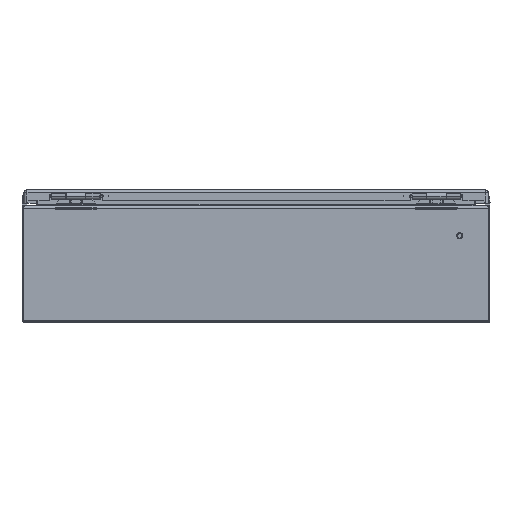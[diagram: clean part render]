
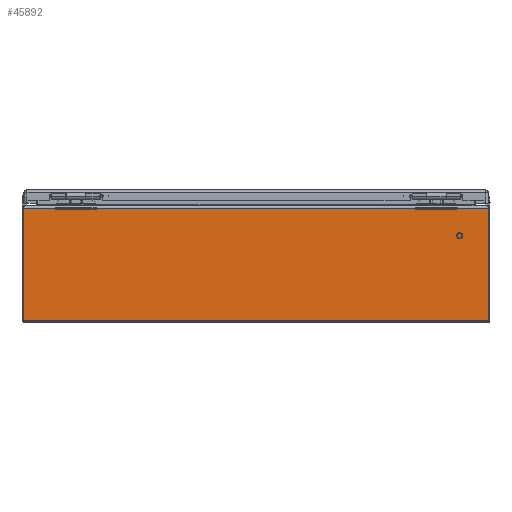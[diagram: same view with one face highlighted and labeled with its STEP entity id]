
A CAD part, left-side view. The second image highlights one B-rep face of the part: STEP entity #45892.
In plain terms, the highlighted planar face has unit normal (-1, 0, 0).
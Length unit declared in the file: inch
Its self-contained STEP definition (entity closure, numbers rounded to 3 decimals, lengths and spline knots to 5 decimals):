
#722 = EDGE_CURVE ( 'NONE', #37705, #37706, #25071, .T. ) ;
#765 = EDGE_CURVE ( 'NONE', #37542, #37543, #25126, .T. ) ;
#780 = EDGE_CURVE ( 'NONE', #37705, #37543, #25153, .T. ) ;
#783 = EDGE_CURVE ( 'NONE', #37706, #37542, #25158, .T. ) ;
#4175 = CARTESIAN_POINT ( 'NONE',  ( -12., -11.93793, 0.106 ) ) ;
#4176 = CARTESIAN_POINT ( 'NONE',  ( -12., -11.93793, 5.855 ) ) ;
#4338 = CARTESIAN_POINT ( 'NONE',  ( -12., 11.93793, 5.855 ) ) ;
#4339 = CARTESIAN_POINT ( 'NONE',  ( -12., 11.93793, 0.106 ) ) ;
#7543 = CARTESIAN_POINT ( 'NONE',  ( -12., 132., 5.855 ) ) ;
#7547 = PLANE ( 'NONE',  #44786 ) ;
#7552 = DIRECTION ( 'NONE',  ( -1., 0., 0. ) ) ;
#7553 = DIRECTION ( 'NONE',  ( 0., 0., -1. ) ) ;
#7975 = FACE_OUTER_BOUND ( 'NONE', #46783, .T. ) ;
#23492 = ORIENTED_EDGE ( 'NONE', *, *, #765, .T. ) ;
#23574 = ORIENTED_EDGE ( 'NONE', *, *, #783, .T. ) ;
#23580 = ORIENTED_EDGE ( 'NONE', *, *, #722, .T. ) ;
#23581 = ORIENTED_EDGE ( 'NONE', *, *, #780, .F. ) ;
#24616 = CARTESIAN_POINT ( 'NONE',  ( -12., 11.93793, 5.855 ) ) ;
#24620 = DIRECTION ( 'NONE',  ( 0., 0., -1. ) ) ;
#24727 = CARTESIAN_POINT ( 'NONE',  ( -12., -11.93793, 5.855 ) ) ;
#24728 = DIRECTION ( 'NONE',  ( 0., 0., 1. ) ) ;
#24761 = CARTESIAN_POINT ( 'NONE',  ( -12., 132., 5.855 ) ) ;
#24762 = DIRECTION ( 'NONE',  ( 0., -1., 0. ) ) ;
#24763 = CARTESIAN_POINT ( 'NONE',  ( -12., 132., 0.106 ) ) ;
#24769 = DIRECTION ( 'NONE',  ( 0., -1., 0. ) ) ;
#25066 = VECTOR ( 'NONE', #24620, 39.37008 ) ;
#25071 = LINE ( 'NONE', #24616, #25066 ) ;
#25126 = LINE ( 'NONE', #24727, #25135 ) ;
#25135 = VECTOR ( 'NONE', #24728, 39.37008 ) ;
#25153 = LINE ( 'NONE', #24761, #25159 ) ;
#25158 = LINE ( 'NONE', #24763, #25167 ) ;
#25159 = VECTOR ( 'NONE', #24762, 39.37008 ) ;
#25167 = VECTOR ( 'NONE', #24769, 39.37008 ) ;
#37542 = VERTEX_POINT ( 'NONE', #4175 ) ;
#37543 = VERTEX_POINT ( 'NONE', #4176 ) ;
#37705 = VERTEX_POINT ( 'NONE', #4338 ) ;
#37706 = VERTEX_POINT ( 'NONE', #4339 ) ;
#44786 = AXIS2_PLACEMENT_3D ( 'NONE', #7543, #7552, #7553 ) ;
#45892 = ADVANCED_FACE ( 'NONE', ( #7975 ), #7547, .T. ) ;
#46783 = EDGE_LOOP ( 'NONE', ( #23492, #23581, #23580, #23574 ) ) ;
